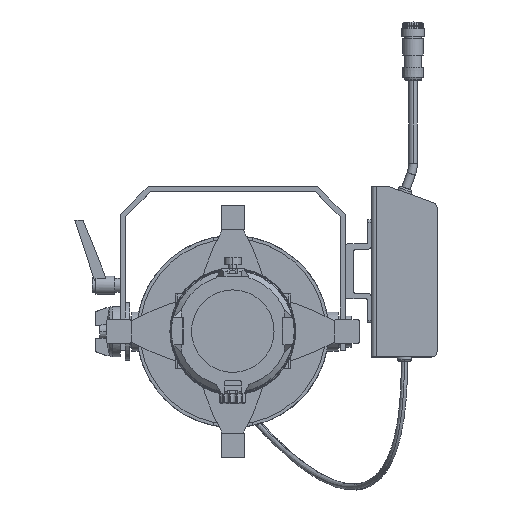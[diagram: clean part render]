
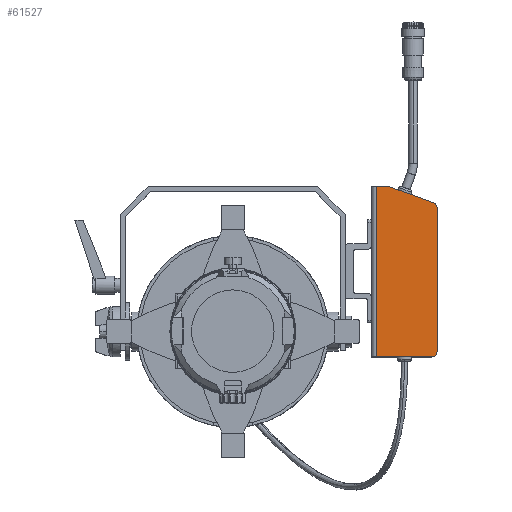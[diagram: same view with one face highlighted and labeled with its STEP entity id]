
A CAD part, top view. The second image highlights one B-rep face of the part: STEP entity #61527.
In plain terms, the highlighted planar face has unit normal (0, 0, 1).
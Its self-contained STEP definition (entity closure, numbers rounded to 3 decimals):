
#1931 = DIRECTION ( 'NONE',  ( 0.342, 0.94, 0. ) ) ;
#2634 = AXIS2_PLACEMENT_3D ( 'NONE', #40541, #86807, #94898 ) ;
#3067 = AXIS2_PLACEMENT_3D ( 'NONE', #45250, #28999, #37436 ) ;
#3108 = PLANE ( 'NONE',  #48140 ) ;
#3983 = CIRCLE ( 'NONE', #2634, 5. ) ;
#6418 = CARTESIAN_POINT ( 'NONE',  ( 82.457, -50.945, 47.5 ) ) ;
#8738 = VERTEX_POINT ( 'NONE', #93844 ) ;
#12494 = LINE ( 'NONE', #57679, #39053 ) ;
#13191 = EDGE_CURVE ( 'NONE', #39318, #95655, #70316, .T. ) ;
#17589 = VERTEX_POINT ( 'NONE', #65703 ) ;
#19275 = DIRECTION ( 'NONE',  ( 0., 1., 0. ) ) ;
#21083 = DIRECTION ( 'NONE',  ( 0., -1., 0. ) ) ;
#23171 = DIRECTION ( 'NONE',  ( 1., 0., 0. ) ) ;
#23591 = VERTEX_POINT ( 'NONE', #65674 ) ;
#24150 = LINE ( 'NONE', #47972, #44725 ) ;
#24306 = CIRCLE ( 'NONE', #78543, 5. ) ;
#26120 = DIRECTION ( 'NONE',  ( 1., 0., 0. ) ) ;
#27481 = CARTESIAN_POINT ( 'NONE',  ( 83., -47.867, 47.5 ) ) ;
#28999 = DIRECTION ( 'NONE',  ( 0., 0., 1. ) ) ;
#29736 = ORIENTED_EDGE ( 'NONE', *, *, #92672, .T. ) ;
#30002 = VERTEX_POINT ( 'NONE', #6418 ) ;
#31735 = ORIENTED_EDGE ( 'NONE', *, *, #13191, .T. ) ;
#32228 = EDGE_CURVE ( 'NONE', #23591, #74415, #12494, .T. ) ;
#37163 = FACE_OUTER_BOUND ( 'NONE', #89955, .T. ) ;
#37436 = DIRECTION ( 'NONE',  ( 1., 0., 0. ) ) ;
#39053 = VECTOR ( 'NONE', #21083, 1000. ) ;
#39318 = VERTEX_POINT ( 'NONE', #27481 ) ;
#40541 = CARTESIAN_POINT ( 'NONE',  ( 62.63, -90.8, 47.5 ) ) ;
#44725 = VECTOR ( 'NONE', #1931, 1000. ) ;
#45250 = CARTESIAN_POINT ( 'NONE',  ( 74., -47.867, 47.5 ) ) ;
#45346 = DIRECTION ( 'NONE',  ( -1., 0., 0. ) ) ;
#46156 = LINE ( 'NONE', #88769, #99670 ) ;
#46169 = ORIENTED_EDGE ( 'NONE', *, *, #83934, .T. ) ;
#46376 = EDGE_CURVE ( 'NONE', #74415, #17589, #24306, .T. ) ;
#47972 = CARTESIAN_POINT ( 'NONE',  ( 67.329, -92.51, 47.5 ) ) ;
#48140 = AXIS2_PLACEMENT_3D ( 'NONE', #72979, #56338, #26120 ) ;
#49542 = VERTEX_POINT ( 'NONE', #86264 ) ;
#49778 = CARTESIAN_POINT ( 'NONE',  ( 83., -31.8, 47.5 ) ) ;
#50340 = DIRECTION ( 'NONE',  ( 1., 0., 0. ) ) ;
#52597 = VECTOR ( 'NONE', #45346, 1000. ) ;
#56338 = DIRECTION ( 'NONE',  ( 0., 0., 1. ) ) ;
#57455 = LINE ( 'NONE', #91922, #52597 ) ;
#57679 = CARTESIAN_POINT ( 'NONE',  ( -82., -90.8, 47.5 ) ) ;
#57985 = EDGE_CURVE ( 'NONE', #49542, #30002, #24150, .T. ) ;
#60837 = DIRECTION ( 'NONE',  ( 0., 0., 1. ) ) ;
#61527 = ADVANCED_FACE ( 'NONE', ( #37163 ), #3108, .T. ) ;
#65674 = CARTESIAN_POINT ( 'NONE',  ( -82., -36.8, 47.5 ) ) ;
#65703 = CARTESIAN_POINT ( 'NONE',  ( -77., -95.8, 47.5 ) ) ;
#70316 = LINE ( 'NONE', #49778, #71455 ) ;
#71455 = VECTOR ( 'NONE', #19275, 1000. ) ;
#71731 = CARTESIAN_POINT ( 'NONE',  ( 83., -36.8, 47.5 ) ) ;
#71769 = ORIENTED_EDGE ( 'NONE', *, *, #91059, .T. ) ;
#72979 = CARTESIAN_POINT ( 'NONE',  ( 74., -47.867, 47.5 ) ) ;
#74415 = VERTEX_POINT ( 'NONE', #90333 ) ;
#78543 = AXIS2_PLACEMENT_3D ( 'NONE', #100514, #60837, #23171 ) ;
#79105 = EDGE_CURVE ( 'NONE', #30002, #39318, #82360, .T. ) ;
#79496 = ORIENTED_EDGE ( 'NONE', *, *, #79105, .T. ) ;
#82360 = CIRCLE ( 'NONE', #3067, 9. ) ;
#83791 = ORIENTED_EDGE ( 'NONE', *, *, #57985, .T. ) ;
#83934 = EDGE_CURVE ( 'NONE', #17589, #8738, #46156, .T. ) ;
#86264 = CARTESIAN_POINT ( 'NONE',  ( 67.329, -92.51, 47.5 ) ) ;
#86807 = DIRECTION ( 'NONE',  ( 0., 0., 1. ) ) ;
#88769 = CARTESIAN_POINT ( 'NONE',  ( 62.63, -95.8, 47.5 ) ) ;
#88812 = ORIENTED_EDGE ( 'NONE', *, *, #32228, .T. ) ;
#89955 = EDGE_LOOP ( 'NONE', ( #31735, #71769, #88812, #95090, #46169, #29736, #83791, #79496 ) ) ;
#90333 = CARTESIAN_POINT ( 'NONE',  ( -82., -90.8, 47.5 ) ) ;
#91059 = EDGE_CURVE ( 'NONE', #95655, #23591, #57455, .T. ) ;
#91922 = CARTESIAN_POINT ( 'NONE',  ( -82., -36.8, 47.5 ) ) ;
#92672 = EDGE_CURVE ( 'NONE', #8738, #49542, #3983, .T. ) ;
#93844 = CARTESIAN_POINT ( 'NONE',  ( 62.63, -95.8, 47.5 ) ) ;
#94898 = DIRECTION ( 'NONE',  ( 1., 0., 0. ) ) ;
#95090 = ORIENTED_EDGE ( 'NONE', *, *, #46376, .T. ) ;
#95655 = VERTEX_POINT ( 'NONE', #71731 ) ;
#99670 = VECTOR ( 'NONE', #50340, 1000. ) ;
#100514 = CARTESIAN_POINT ( 'NONE',  ( -77., -90.8, 47.5 ) ) ;
